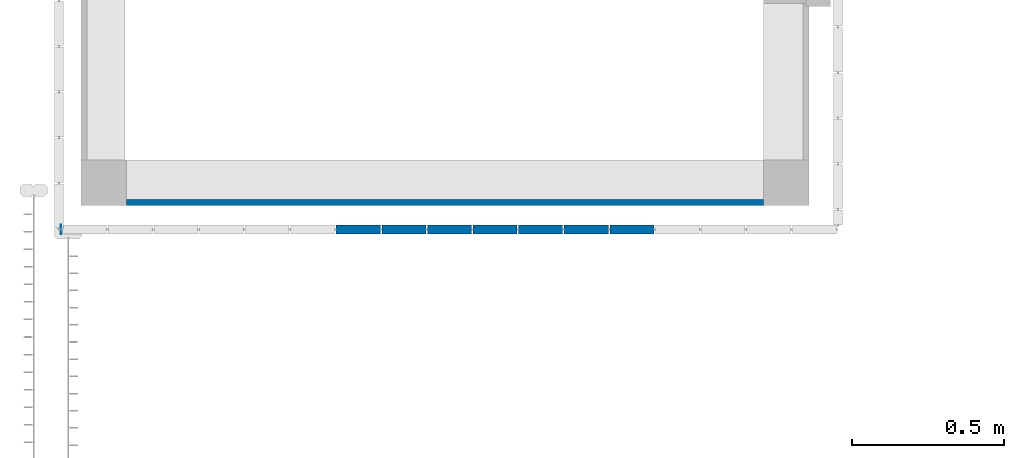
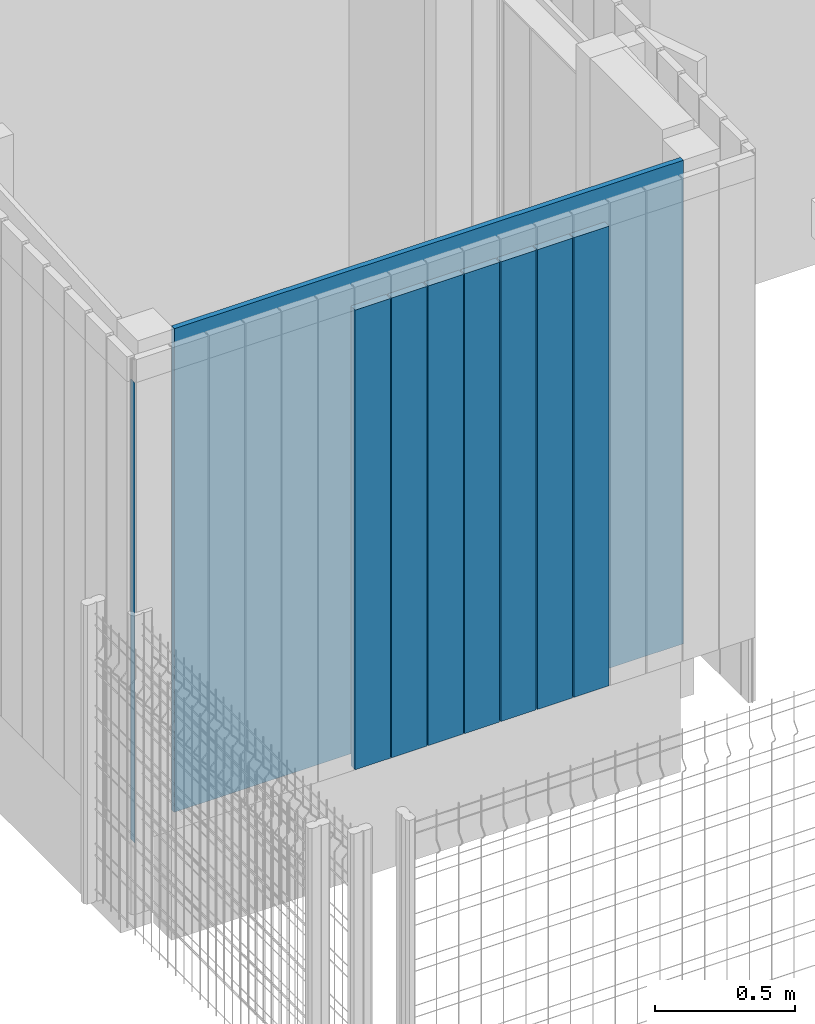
# One storey, part 66 of 81: 9 walls, 1 element without a shape of its own.
"""IFC2X3 building model written with IfcOpenShell, lengths in metres."""

import ifcopenshell
import ifcopenshell.guid

model = None  # the IFC model being written
_history = None  # IfcOwnerHistory: only IFC2X3 demands one
_inside = {}  # id of a spatial element -> (the spatial element, [elements in it])
_under = {}  # id of a project, library or spatial element -> (it, [spatial elements below it])
_declared = {}  # id of a project -> (the project, [libraries it declares])
_typed = {}  # id of a type object -> (the type object, [elements of that type])
_made_of = {}  # id of a material, layer set ... -> (it, [elements and type objects made of it])


def new_model(schema):
    """Start an empty IFC model of exactly this schema.

    Asked for "IFC4X3", IfcOpenShell would pick the latest addendum, in which some entities
    have other attributes; the version numbers below select the first issue.
    IFC2X3 requires an IfcOwnerHistory on every rooted entity: one is made here for all.
    """
    global model, _history
    if schema == "IFC4X3":
        model = ifcopenshell.file(schema_version=(4, 3, 0, 0))
    else:
        model = ifcopenshell.file(schema=schema)
    _inside.clear()
    _under.clear()
    _declared.clear()
    _typed.clear()
    _made_of.clear()
    _history = None
    if model.schema == "IFC2X3":
        org = make("IfcOrganization", Name="unknown")
        user = make(
            "IfcPersonAndOrganization",
            ThePerson=make("IfcPerson", FamilyName="unknown"),
            TheOrganization=org,
        )
        app = make(
            "IfcApplication",
            ApplicationDeveloper=org,
            Version="unknown",
            ApplicationFullName="unknown",
            ApplicationIdentifier="unknown",
        )
        _history = make(
            "IfcOwnerHistory",
            OwningUser=user,
            OwningApplication=app,
            ChangeAction="ADDED",
            CreationDate=0,
        )
    return model


def make(cls, **values):
    """One entity of the class cls with the attributes given. An attribute that is None is left unset."""
    return model.create_entity(
        cls, **{name: value for name, value in values.items() if value is not None}
    )


def entity(cls, *values):
    """Any entity or typed value of the class cls, its attributes in the order of the schema. None: left unset."""
    e = model.create_entity(cls)
    for i, value in enumerate(values):
        if value is not None:
            e[i] = value
    return e


def rooted(cls, **values):
    """An entity with a GlobalId (a new one), such as an element, a storey or a relation."""
    return make(cls, GlobalId=ifcopenshell.guid.new(), OwnerHistory=_history, **values)


def si_unit(unit_type, name, prefix=None):
    """IfcSIUnit, for example si_unit("LENGTHUNIT", "METRE", prefix="MILLI")."""
    return make("IfcSIUnit", UnitType=unit_type, Prefix=prefix, Name=name)


def converted_unit(unit_type, name, factor, base, dimensions=None, offset=None):
    """IfcConversionBasedUnit, such as the inch: factor (a typed value) times the base unit."""
    return make(
        "IfcConversionBasedUnit"
        if offset is None
        else "IfcConversionBasedUnitWithOffset",
        ConversionOffset=offset,
        Dimensions=None
        if dimensions is None
        else entity("IfcDimensionalExponents", *dimensions),
        UnitType=unit_type,
        Name=name,
        ConversionFactor=make(
            "IfcMeasureWithUnit", ValueComponent=factor, UnitComponent=base
        ),
    )


def derived_unit(unit_type, elements):
    """IfcDerivedUnit: a product of units, each with its exponent."""
    return make(
        "IfcDerivedUnit",
        Elements=[
            make("IfcDerivedUnitElement", Unit=unit, Exponent=power)
            for unit, power in elements
        ],
        UnitType=unit_type,
    )


def assignment(units):
    """IfcUnitAssignment: the units of a project."""
    return None if units is None else make("IfcUnitAssignment", Units=units)


def point(xyz):
    """IfcCartesianPoint."""
    return None if xyz is None else make("IfcCartesianPoint", Coordinates=xyz)


def direction(xyz):
    """IfcDirection."""
    return None if xyz is None else make("IfcDirection", DirectionRatios=xyz)


def frame(location, z_axis=None, x_axis=None):
    """IfcAxis2Placement3D, a coordinate frame: its origin and axes. An axis left out is left unset."""
    return make(
        "IfcAxis2Placement3D",
        Location=point(location),
        Axis=direction(z_axis),
        RefDirection=direction(x_axis),
    )


def frame_2d(location, x_axis=None):
    """IfcAxis2Placement2D, a coordinate frame in the plane: its origin and x axis."""
    return make(
        "IfcAxis2Placement2D", Location=point(location), RefDirection=direction(x_axis)
    )


def origin():
    """The frame at (0, 0, 0) with its axes left unset."""
    return frame((0.0, 0.0, 0.0))


def place(relative_to, where):
    """IfcLocalPlacement: puts the frame where relative to a parent placement (None: the world)."""
    return make(
        "IfcLocalPlacement", PlacementRelTo=relative_to, RelativePlacement=where
    )


def context(
    kind, dimensions, precision=None, world=None, true_north=None, identifier=None
):
    """IfcGeometricRepresentationContext, for example the 3D "Model" context."""
    return make(
        "IfcGeometricRepresentationContext",
        ContextIdentifier=identifier,
        ContextType=kind,
        CoordinateSpaceDimension=dimensions,
        Precision=precision,
        WorldCoordinateSystem=world,
        TrueNorth=true_north,
    )


def subcontext(parent, identifier, kind, view, scale=None):
    """IfcGeometricRepresentationSubContext, for example "Body" below "Model"."""
    return make(
        "IfcGeometricRepresentationSubContext",
        ContextIdentifier=identifier,
        ContextType=kind,
        ParentContext=parent,
        TargetScale=scale,
        TargetView=view,
    )


def project(units=None, contexts=None):
    """IfcProject with its units and contexts."""
    return rooted(
        "IfcProject",
        Name="project",
        RepresentationContexts=contexts,
        UnitsInContext=assignment(units),
    )


def spatial(cls, under=None, at=None, **own):
    """A site, building, storey or space (cls), placed at a placement, below another one or the project."""
    s = rooted(cls, ObjectPlacement=at, **own)
    if under is not None:
        _under.setdefault(under.id(), (under, []))[1].append(s)
    return s


def polyline(points):
    """IfcPolyline through the points."""
    return make("IfcPolyline", Points=[point(p) for p in points])


def profile(cls, at=None, kind="AREA", **sizes):
    """A parametric profile (cls). Its sizes go by their IFC names, for example OverallWidth=200.0."""
    return make(cls, ProfileType=kind, Position=at, **sizes)


def rectangle(**sizes):
    """IfcRectangleProfileDef."""
    return profile("IfcRectangleProfileDef", **sizes)


def extrude(swept, where, along, depth):
    """IfcExtrudedAreaSolid: the profile swept, set in the frame where, extruded along a direction by depth."""
    return make(
        "IfcExtrudedAreaSolid",
        SweptArea=swept,
        Position=where,
        ExtrudedDirection=direction(along),
        Depth=depth,
    )


def clip(a, b, op="DIFFERENCE"):
    """IfcBooleanClippingResult: the solid a cut by the half space b."""
    return make(
        "IfcBooleanClippingResult", Operator=op, FirstOperand=a, SecondOperand=b
    )


def bounded_halfspace(plane, agree, where, boundary):
    """IfcPolygonalBoundedHalfSpace: a half space limited to a polygon's prism."""
    return make(
        "IfcPolygonalBoundedHalfSpace",
        BaseSurface=make("IfcPlane", Position=plane),
        AgreementFlag=agree,
        Position=where,
        PolygonalBoundary=boundary,
    )


def shape(context_of_items, identifier, shape_type, items):
    """IfcShapeRepresentation: the items that make up one representation, for example the "Body"."""
    return make(
        "IfcShapeRepresentation",
        ContextOfItems=context_of_items,
        RepresentationIdentifier=identifier,
        RepresentationType=shape_type,
        Items=items,
    )


def material(Name=None, Category=None):
    """IfcMaterial."""
    return make("IfcMaterial", Name=Name, Category=Category)


def layer(
    of_material, thickness, ventilated=None, Name=None, Category=None, Priority=None
):
    """IfcMaterialLayer: one layer of a wall or slab, of a material (None: an air gap)."""
    return make(
        "IfcMaterialLayer",
        Material=of_material,
        LayerThickness=thickness,
        IsVentilated=ventilated,
        Name=Name,
        Category=Category,
        Priority=Priority,
    )


def layer_set(layers, Name=None):
    """IfcMaterialLayerSet."""
    return make("IfcMaterialLayerSet", MaterialLayers=layers, LayerSetName=Name)


def layer_usage(for_layer_set, set_direction, sense, offset, extent=None):
    """IfcMaterialLayerSetUsage: how a layer set lies in its element."""
    return make(
        "IfcMaterialLayerSetUsage",
        ForLayerSet=for_layer_set,
        LayerSetDirection=set_direction,
        DirectionSense=sense,
        OffsetFromReferenceLine=offset,
        ReferenceExtent=extent,
    )


def made_of(thing, what):
    """Note that an element or type object is made of a material, layer set ...; save() writes the relation."""
    if what is not None:
        _made_of.setdefault(what.id(), (what, []))[1].append(thing)
    return thing


def type_object(cls, material=None, **own):
    """A type object (cls), such as IfcWallType, which elements share."""
    return made_of(rooted(cls, **own), material)


def element(
    cls,
    number,
    at=None,
    inside=None,
    cuts=None,
    type_object=None,
    material=None,
    context=None,
    identifier="Body",
    shape_type=None,
    held_by="IfcProductDefinitionShape",
    body=None,
    shapes=None,
    **own,
):
    """One element of the class cls, such as IfcWall. Its Tag is "e" and its number.

    at: its placement. inside: the storey or other place that contains it. cuts: it is an
    opening in that element (IfcRelVoidsElement). A single representation is given by context,
    identifier, shape_type and body (its items); several are given by shapes. held_by: the class
    of the entity that holds the representations. save() writes the other relations.
    """
    e = rooted(cls, Tag="e%d" % number, ObjectPlacement=at, **own)
    if body is not None:
        shapes = [shape(context, identifier, shape_type, body)]
    if shapes is not None:
        e.Representation = make(held_by, Representations=shapes)
    if inside is not None:
        _inside.setdefault(inside.id(), (inside, []))[1].append(e)
    if cuts is not None:
        rooted(
            "IfcRelVoidsElement", RelatingBuildingElement=cuts, RelatedOpeningElement=e
        )
    if type_object is not None:
        _typed.setdefault(type_object.id(), (type_object, []))[1].append(e)
    return made_of(e, material)


def aggregate(whole, parts):
    """IfcRelAggregates: a whole, such as a stair, and the parts it consists of."""
    return rooted("IfcRelAggregates", RelatingObject=whole, RelatedObjects=parts)


def save(model, path):
    """Write the relations noted so far, then the file.

    IfcRelAggregates (storeys below a building ...), IfcRelContainedInSpatialStructure (elements
    in a storey), IfcRelDefinesByType, IfcRelAssociatesMaterial and IfcRelDeclares: one each for
    every whole, place, type object, material and project.
    """
    for whole, parts in _under.values():
        aggregate(whole, parts)
    for where, things in _inside.values():
        rooted(
            "IfcRelContainedInSpatialStructure",
            RelatedElements=things,
            RelatingStructure=where,
        )
    for kind, things in _typed.values():
        rooted("IfcRelDefinesByType", RelatedObjects=things, RelatingType=kind)
    for what, things in _made_of.values():
        rooted("IfcRelAssociatesMaterial", RelatedObjects=things, RelatingMaterial=what)
    for by, libraries in _declared.values():
        rooted("IfcRelDeclares", RelatingContext=by, RelatedDefinitions=libraries)
    model.write(path)


model = new_model("IFC2X3")

# Units and contexts
model_context = context("Model", 3, precision=1e-05, world=origin(), true_north=direction((6.12303176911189e-17, 1.0)))
body_context = subcontext(model_context, "Body", "Model", "MODEL_VIEW")
ifc_project = project(units=[si_unit("LENGTHUNIT", "METRE"), si_unit("AREAUNIT", "SQUARE_METRE"), si_unit("VOLUMEUNIT", "CUBIC_METRE"), converted_unit("PLANEANGLEUNIT", "DEGREE", entity("IfcRatioMeasure", 0.0174532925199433), si_unit("PLANEANGLEUNIT", "RADIAN"), dimensions=[0, 0, 0, 0, 0, 0, 0]), si_unit("MASSUNIT", "GRAM", prefix="KILO"), derived_unit("MASSDENSITYUNIT", [(si_unit("MASSUNIT", "GRAM", prefix="KILO"), 1), (si_unit("LENGTHUNIT", "METRE"), -3)]), derived_unit("MOMENTOFINERTIAUNIT", [(si_unit("LENGTHUNIT", "METRE"), 4)]), si_unit("TIMEUNIT", "SECOND"), si_unit("FREQUENCYUNIT", "HERTZ"), si_unit("THERMODYNAMICTEMPERATUREUNIT", "DEGREE_CELSIUS"), derived_unit("THERMALTRANSMITTANCEUNIT", [(si_unit("MASSUNIT", "GRAM", prefix="KILO"), 1), (si_unit("THERMODYNAMICTEMPERATUREUNIT", "KELVIN"), -1), (si_unit("TIMEUNIT", "SECOND"), -3)]), derived_unit("VOLUMETRICFLOWRATEUNIT", [(si_unit("LENGTHUNIT", "METRE"), 3), (si_unit("TIMEUNIT", "SECOND"), -1)]), si_unit("ELECTRICCURRENTUNIT", "AMPERE"), si_unit("ELECTRICVOLTAGEUNIT", "VOLT"), si_unit("POWERUNIT", "WATT"), si_unit("FORCEUNIT", "NEWTON", prefix="KILO"), si_unit("ILLUMINANCEUNIT", "LUX"), si_unit("LUMINOUSFLUXUNIT", "LUMEN"), si_unit("LUMINOUSINTENSITYUNIT", "CANDELA"), derived_unit("USERDEFINED", [(si_unit("MASSUNIT", "GRAM", prefix="KILO"), -1), (si_unit("LENGTHUNIT", "METRE"), -2), (si_unit("TIMEUNIT", "SECOND"), 3), (si_unit("LUMINOUSFLUXUNIT", "LUMEN"), 1)]), derived_unit("LINEARVELOCITYUNIT", [(si_unit("LENGTHUNIT", "METRE"), 1), (si_unit("TIMEUNIT", "SECOND"), -1)]), si_unit("PRESSUREUNIT", "PASCAL"), derived_unit("USERDEFINED", [(si_unit("LENGTHUNIT", "METRE"), -2), (si_unit("MASSUNIT", "GRAM", prefix="KILO"), 1), (si_unit("TIMEUNIT", "SECOND"), -2)]), derived_unit("LINEARFORCEUNIT", [(si_unit("MASSUNIT", "GRAM", prefix="KILO"), 1), (si_unit("LENGTHUNIT", "METRE"), 1), (si_unit("TIMEUNIT", "SECOND"), -2), (si_unit("LENGTHUNIT", "METRE"), -1)]), derived_unit("PLANARFORCEUNIT", [(si_unit("MASSUNIT", "GRAM", prefix="KILO"), 1), (si_unit("LENGTHUNIT", "METRE"), 1), (si_unit("TIMEUNIT", "SECOND"), -2), (si_unit("LENGTHUNIT", "METRE"), -2)])], contexts=[model_context])

# Site, building, storey
site_placement = place(None, origin())
site = spatial("IfcSite", under=ifc_project, at=site_placement, Name="Surface", CompositionType="ELEMENT")
building_placement = place(site_placement, origin())
building = spatial("IfcBuilding", under=site, at=building_placement, CompositionType="ELEMENT")
storey_placement = place(building_placement, origin())
storey = spatial("IfcBuildingStorey", under=building, at=storey_placement, Name="01 RDC", CompositionType="ELEMENT", Elevation=-1.94916083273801e-14)

# Wall
ifc_material_1 = material(Name="Maçonnerie - Isolant")
ifc_layer_1 = layer(ifc_material_1, 0.02)
ifc_layer_set_1 = layer_set([ifc_layer_1], Name="Mur de base:Int. Polyester 20 mm")
ifc_layer_usage_1 = layer_usage(ifc_layer_set_1, "AXIS2", "NEGATIVE", 0.01)
wall_type_1 = type_object("IfcWallType", Name="Mur de base:Int. Polyester 20 mm", PredefinedType="STANDARD", material=ifc_layer_set_1)
wall_1_placement = place(storey_placement, frame((5.68156158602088, -6.22096095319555, 0.3)))
element("IfcWallStandardCase", 1, at=wall_1_placement, inside=storey, type_object=wall_type_1, material=ifc_layer_usage_1, Name="Mur de base:Int. Polyester 20 mm", ObjectType="Mur de base:Int. Polyester 20 mm", context=body_context, shape_type="Clipping", body=[
    clip(extrude(rectangle(XDim=2.095, YDim=0.0199999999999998, at=frame_2d((1.0475, -2.34187669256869e-17), x_axis=(-1.0, 0.0))), origin(), (0.0, 0.0, 1.0), 2.10465376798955), bounded_halfspace(frame((0.0, -0.00999999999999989, 2.10343051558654), z_axis=(0.0, 0.0610485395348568, -0.998134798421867), x_axis=(0.0, 0.998134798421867, 0.0610485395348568)), True, frame((0.0, -0.00999999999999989, 2.10343051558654)), polyline([(0.0, 0.0), (2.095, 0.0), (2.095, 0.0199999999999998), (0.0, 0.0199999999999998), (0.0, 0.0)]))),
])

# Curtain wall, walls
curtain_wall_type = type_object("IfcCurtainWallType", Name="Mur-rideau:1m x 2m", PredefinedType="NOTDEFINED")
curtain_wall_placement = place(storey_placement, origin())
curtain_wall = element("IfcCurtainWall", 2, at=curtain_wall_placement, inside=storey, type_object=curtain_wall_type, Name="Mur-rideau:1m x 2m", ObjectType="Mur-rideau:1m x 2m")
ifc_material_2 = material(Name="Résineux, bois de construction")
ifc_layer_2 = layer(ifc_material_2, 0.03)
ifc_layer_set_2 = layer_set([ifc_layer_2], Name="Mur-rideau:1m x 2m")
ifc_layer_usage_2 = layer_usage(ifc_layer_set_2, "AXIS2", "POSITIVE", -0.015)
wall_type_2 = type_object("IfcWallType", Name="Mur de base:Panneau Triply 30 mm", PredefinedType="NOTDEFINED", material=ifc_layer_set_2)
wall_2_placement = place(storey_placement, frame((7.41656158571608, -6.30971095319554, 0.3), z_axis=(0.0, 0.0, 1.0), x_axis=(-1.0, 0.0, 0.0)))
wall_2 = element("IfcWallStandardCase", 3, at=wall_2_placement, type_object=wall_type_2, material=ifc_layer_usage_2, Name="Mur de base:Panneau Triply 30 mm", ObjectType="Mur de base:Panneau Triply 30 mm", context=body_context, shape_type="SweptSolid", body=[
    extrude(rectangle(XDim=0.145, YDim=0.0299999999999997, at=frame_2d((0.0724999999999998, 2.25514051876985e-16), x_axis=(-1.0, 0.0))), origin(), (0.0, 0.0, 1.0), 1.99999999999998),
])
ifc_layer_usage_3 = layer_usage(ifc_layer_set_2, "AXIS2", "POSITIVE", -0.015)
wall_3_placement = place(storey_placement, frame((7.26656158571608, -6.30971095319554, 0.3), z_axis=(0.0, 0.0, 1.0), x_axis=(-1.0, 0.0, 0.0)))
wall_3 = element("IfcWallStandardCase", 4, at=wall_3_placement, type_object=wall_type_2, material=ifc_layer_usage_3, Name="Mur de base:Panneau Triply 30 mm", ObjectType="Mur de base:Panneau Triply 30 mm", context=body_context, shape_type="SweptSolid", body=[
    extrude(rectangle(XDim=0.144999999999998, YDim=0.0299999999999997, at=frame_2d((0.0724999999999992, 2.25514051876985e-16), x_axis=(-1.0, 0.0))), origin(), (0.0, 0.0, 1.0), 1.99999999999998),
])
ifc_layer_usage_4 = layer_usage(ifc_layer_set_2, "AXIS2", "POSITIVE", -0.015)
wall_4_placement = place(storey_placement, frame((7.11656158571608, -6.30971095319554, 0.3), z_axis=(0.0, 0.0, 1.0), x_axis=(-1.0, 0.0, 0.0)))
wall_4 = element("IfcWallStandardCase", 5, at=wall_4_placement, type_object=wall_type_2, material=ifc_layer_usage_4, Name="Mur de base:Panneau Triply 30 mm", ObjectType="Mur de base:Panneau Triply 30 mm", context=body_context, shape_type="SweptSolid", body=[
    extrude(rectangle(XDim=0.145, YDim=0.0299999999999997, at=frame_2d((0.0724999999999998, -3.15719672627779e-16), x_axis=(-1.0, 0.0))), origin(), (0.0, 0.0, 1.0), 1.99999999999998),
])
ifc_layer_usage_5 = layer_usage(ifc_layer_set_2, "AXIS2", "POSITIVE", -0.015)
wall_5_placement = place(storey_placement, frame((6.96656158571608, -6.30971095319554, 0.3), z_axis=(0.0, 0.0, 1.0), x_axis=(-1.0, 0.0, 0.0)))
wall_5 = element("IfcWallStandardCase", 6, at=wall_5_placement, type_object=wall_type_2, material=ifc_layer_usage_5, Name="Mur de base:Panneau Triply 30 mm", ObjectType="Mur de base:Panneau Triply 30 mm", context=body_context, shape_type="SweptSolid", body=[
    extrude(rectangle(XDim=0.144999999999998, YDim=0.0299999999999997, at=frame_2d((0.0724999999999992, 2.25514051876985e-16), x_axis=(-1.0, 0.0))), origin(), (0.0, 0.0, 1.0), 1.99999999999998),
])
ifc_layer_usage_6 = layer_usage(ifc_layer_set_2, "AXIS2", "POSITIVE", -0.015)
wall_6_placement = place(storey_placement, frame((6.81656158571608, -6.30971095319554, 0.3), z_axis=(0.0, 0.0, 1.0), x_axis=(-1.0, 0.0, 0.0)))
wall_6 = element("IfcWallStandardCase", 7, at=wall_6_placement, type_object=wall_type_2, material=ifc_layer_usage_6, Name="Mur de base:Panneau Triply 30 mm", ObjectType="Mur de base:Panneau Triply 30 mm", context=body_context, shape_type="SweptSolid", body=[
    extrude(rectangle(XDim=0.145, YDim=0.0299999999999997, at=frame_2d((0.0724999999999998, -3.15719672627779e-16), x_axis=(-1.0, 0.0))), origin(), (0.0, 0.0, 1.0), 1.99999999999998),
])
ifc_layer_usage_7 = layer_usage(ifc_layer_set_2, "AXIS2", "POSITIVE", -0.015)
wall_7_placement = place(storey_placement, frame((6.66656158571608, -6.30971095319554, 0.3), z_axis=(0.0, 0.0, 1.0), x_axis=(-1.0, 0.0, 0.0)))
wall_7 = element("IfcWallStandardCase", 8, at=wall_7_placement, type_object=wall_type_2, material=ifc_layer_usage_7, Name="Mur de base:Panneau Triply 30 mm", ObjectType="Mur de base:Panneau Triply 30 mm", context=body_context, shape_type="SweptSolid", body=[
    extrude(rectangle(XDim=0.144999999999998, YDim=0.0299999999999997, at=frame_2d((0.0724999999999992, 2.25514051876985e-16), x_axis=(-1.0, 0.0))), origin(), (0.0, 0.0, 1.0), 1.99999999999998),
])
ifc_layer_usage_8 = layer_usage(ifc_layer_set_2, "AXIS2", "POSITIVE", -0.015)
wall_8_placement = place(storey_placement, frame((6.51656158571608, -6.30971095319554, 0.3), z_axis=(0.0, 0.0, 1.0), x_axis=(-1.0, 0.0, 0.0)))
wall_8 = element("IfcWallStandardCase", 9, at=wall_8_placement, type_object=wall_type_2, material=ifc_layer_usage_8, Name="Mur de base:Panneau Triply 30 mm", ObjectType="Mur de base:Panneau Triply 30 mm", context=body_context, shape_type="SweptSolid", body=[
    extrude(rectangle(XDim=0.145, YDim=0.0299999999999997, at=frame_2d((0.0724999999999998, -3.15719672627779e-16), x_axis=(-1.0, 0.0))), origin(), (0.0, 0.0, 1.0), 1.99999999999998),
])
ifc_layer_usage_9 = layer_usage(ifc_layer_set_2, "AXIS2", "POSITIVE", -0.015)
wall_9_placement = place(storey_placement, frame((5.46656158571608, -6.30971095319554, 0.3), z_axis=(0.0, 0.0, 1.0), x_axis=(-1.0, 0.0, 0.0)))
wall_9 = element("IfcWallStandardCase", 10, at=wall_9_placement, type_object=wall_type_2, material=ifc_layer_usage_9, Name="Mur de base:Panneau Triply 30 mm", ObjectType="Mur de base:Panneau Triply 30 mm", context=body_context, shape_type="SweptSolid", body=[
    extrude(rectangle(XDim=0.0017254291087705, YDim=0.0299999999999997, at=frame_2d((0.000862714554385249, 3.46944695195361e-18), x_axis=(-1.0, 0.0))), origin(), (0.0, 0.0, 1.0), 1.99999999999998),
])
aggregate(curtain_wall, [wall_2, wall_3, wall_4, wall_5, wall_6, wall_7, wall_8, wall_9])

save(model, "model.ifc")
